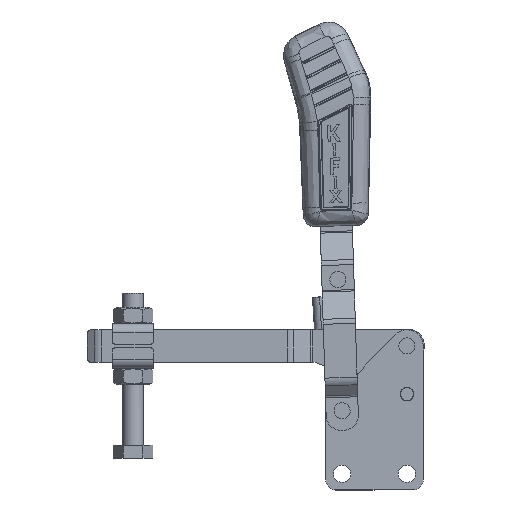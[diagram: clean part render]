
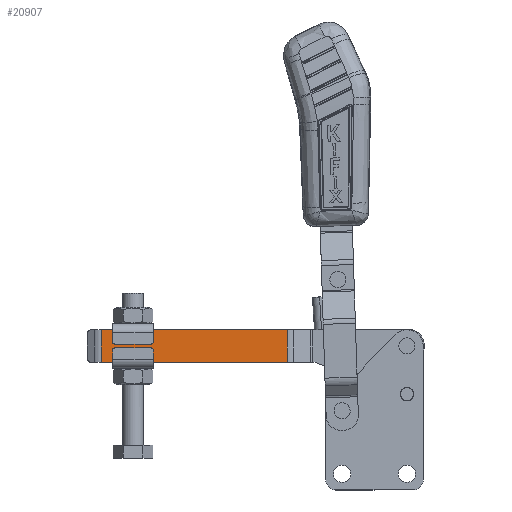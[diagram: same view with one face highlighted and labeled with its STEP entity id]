
A CAD part, top view. The second image highlights one B-rep face of the part: STEP entity #20907.
In plain terms, the highlighted planar face has unit normal (0, 0, 1) as drawn and (1, 0, 0) by its records, which use the part's own axes.
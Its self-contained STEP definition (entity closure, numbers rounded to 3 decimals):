
#256 = ORIENTED_EDGE ( 'NONE', *, *, #8062, .F. ) ;
#457 = LINE ( 'NONE', #23847, #5675 ) ;
#1090 = VERTEX_POINT ( 'NONE', #17665 ) ;
#1663 = PLANE ( 'NONE',  #20343 ) ;
#2026 = DIRECTION ( 'NONE',  ( 0., -1., 0. ) ) ;
#2920 = VECTOR ( 'NONE', #25420, 1000. ) ;
#3399 = CARTESIAN_POINT ( 'NONE',  ( 6.906, 4.423, -8. ) ) ;
#3484 = ORIENTED_EDGE ( 'NONE', *, *, #18504, .F. ) ;
#5093 = CARTESIAN_POINT ( 'NONE',  ( 6.906, 96.7, -8. ) ) ;
#5616 = CARTESIAN_POINT ( 'NONE',  ( 6.906, 96.7, 8. ) ) ;
#5675 = VECTOR ( 'NONE', #2026, 1000. ) ;
#7604 = DIRECTION ( 'NONE',  ( 0., 1., 0. ) ) ;
#8062 = EDGE_CURVE ( 'NONE', #8826, #17402, #23335, .T. ) ;
#8145 = CARTESIAN_POINT ( 'NONE',  ( 6.906, 96.193, -8. ) ) ;
#8157 = LINE ( 'NONE', #15503, #12857 ) ;
#8826 = VERTEX_POINT ( 'NONE', #8145 ) ;
#11478 = DIRECTION ( 'NONE',  ( 0., 0., -1. ) ) ;
#12857 = VECTOR ( 'NONE', #11478, 1000. ) ;
#13488 = LINE ( 'NONE', #17419, #2920 ) ;
#13512 = ORIENTED_EDGE ( 'NONE', *, *, #18665, .T. ) ;
#14970 = FACE_OUTER_BOUND ( 'NONE', #18531, .T. ) ;
#15304 = ORIENTED_EDGE ( 'NONE', *, *, #18515, .T. ) ;
#15503 = CARTESIAN_POINT ( 'NONE',  ( 6.906, 4.423, 8. ) ) ;
#17402 = VERTEX_POINT ( 'NONE', #3399 ) ;
#17419 = CARTESIAN_POINT ( 'NONE',  ( 6.906, 96.193, 8. ) ) ;
#17665 = CARTESIAN_POINT ( 'NONE',  ( 6.906, 4.423, 8. ) ) ;
#18504 = EDGE_CURVE ( 'NONE', #24958, #8826, #13488, .T. ) ;
#18515 = EDGE_CURVE ( 'NONE', #1090, #17402, #8157, .T. ) ;
#18531 = EDGE_LOOP ( 'NONE', ( #256, #3484, #13512, #15304 ) ) ;
#18665 = EDGE_CURVE ( 'NONE', #24958, #1090, #457, .T. ) ;
#19044 = DIRECTION ( 'NONE',  ( 0., -1., 0. ) ) ;
#19574 = DIRECTION ( 'NONE',  ( 1., 0., 0. ) ) ;
#20343 = AXIS2_PLACEMENT_3D ( 'NONE', #5616, #19574, #7604 ) ;
#20907 = ADVANCED_FACE ( 'NONE', ( #14970 ), #1663, .T. ) ;
#23335 = LINE ( 'NONE', #5093, #23962 ) ;
#23847 = CARTESIAN_POINT ( 'NONE',  ( 6.906, 96.7, 8. ) ) ;
#23962 = VECTOR ( 'NONE', #19044, 1000. ) ;
#24287 = CARTESIAN_POINT ( 'NONE',  ( 6.906, 96.193, 8. ) ) ;
#24958 = VERTEX_POINT ( 'NONE', #24287 ) ;
#25420 = DIRECTION ( 'NONE',  ( 0., 0., -1. ) ) ;
